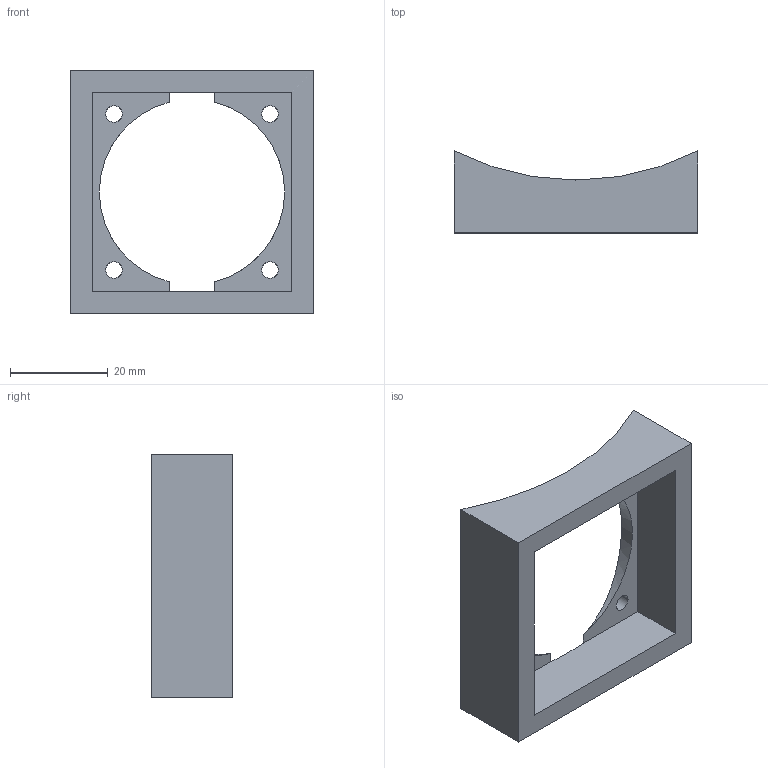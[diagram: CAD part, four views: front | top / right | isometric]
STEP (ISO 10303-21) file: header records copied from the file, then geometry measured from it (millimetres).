
FILE_DESCRIPTION((''),'2;1');
FILE_NAME('ART4BODYFAN','2022-08-24T09:30:06',('domen.bizjak'),('Audax d.o.o.'),'CREO PARAMETRIC BY PTC INC, 2021184','CREO PARAMETRIC BY PTC INC, 2021184','');
FILE_SCHEMA(('AP242_MANAGED_MODEL_BASED_3D_ENGINEERING_MIM_LF { 1 0 10303 442 1 1 4 }'));
Length unit declared in the file: millimetre
Products named in the file (1): ART4BODYFAN
Bounding box: 50 x 16.79 x 50 mm (x, y, z)
Volume: 12594.2 mm3; surface area: 7697.4 mm2
Topology: 1 solids, 1 shells, 22 faces, 67 edges, 50 vertices
Faces by surface type: plane 11, cylinder 11
Entity records: 1916 total; most frequent: CARTESIAN_POINT 322, COLOUR_RGB 319, DIRECTION 145, ORIENTED_EDGE 128, PRESENTATION_STYLE_ASSIGNMENT 96, STYLED_ITEM 96, CURVE_STYLE 69, EDGE_CURVE 64
